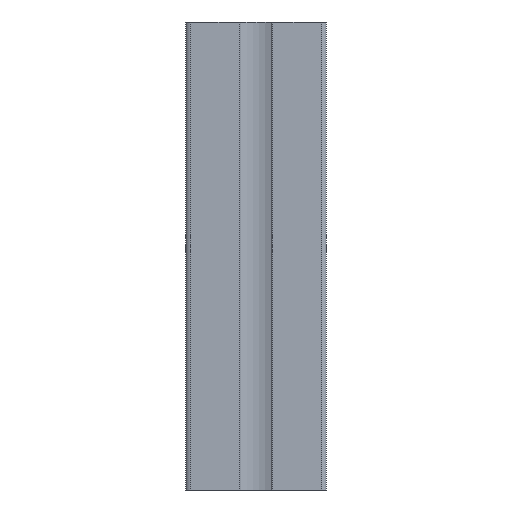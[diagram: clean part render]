
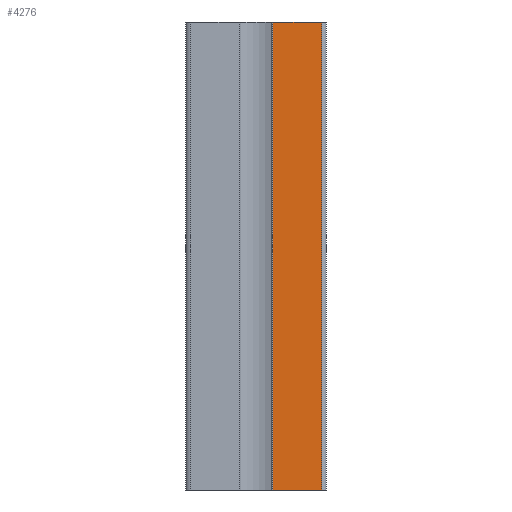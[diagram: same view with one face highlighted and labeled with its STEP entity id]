
A CAD part, front view. The second image highlights one B-rep face of the part: STEP entity #4276.
In plain terms, the highlighted planar face has unit normal (0, -1, 0).
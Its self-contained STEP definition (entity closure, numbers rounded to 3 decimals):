
#133 = EDGE_LOOP ( 'NONE', ( #2985, #7138, #1195, #2493 ) ) ;
#293 = VECTOR ( 'NONE', #3691, 1000. ) ;
#301 = VERTEX_POINT ( 'NONE', #3799 ) ;
#347 = CARTESIAN_POINT ( 'NONE',  ( 3.55, -15., 50. ) ) ;
#413 = VERTEX_POINT ( 'NONE', #4517 ) ;
#613 = CARTESIAN_POINT ( 'NONE',  ( 3.55, -15., 50. ) ) ;
#720 = VERTEX_POINT ( 'NONE', #1559 ) ;
#890 = FACE_OUTER_BOUND ( 'NONE', #133, .T. ) ;
#1094 = EDGE_CURVE ( 'NONE', #301, #720, #5416, .T. ) ;
#1195 = ORIENTED_EDGE ( 'NONE', *, *, #7139, .F. ) ;
#1475 = CARTESIAN_POINT ( 'NONE',  ( 3.55, -15., 50. ) ) ;
#1495 = EDGE_CURVE ( 'NONE', #413, #3148, #5988, .T. ) ;
#1559 = CARTESIAN_POINT ( 'NONE',  ( 14., -15., -50. ) ) ;
#2484 = VECTOR ( 'NONE', #3151, 1000. ) ;
#2493 = ORIENTED_EDGE ( 'NONE', *, *, #1495, .T. ) ;
#2556 = DIRECTION ( 'NONE',  ( 0., 0., 1. ) ) ;
#2985 = ORIENTED_EDGE ( 'NONE', *, *, #6840, .T. ) ;
#3148 = VERTEX_POINT ( 'NONE', #6407 ) ;
#3151 = DIRECTION ( 'NONE',  ( 0., 0., -1. ) ) ;
#3290 = VECTOR ( 'NONE', #6802, 1000. ) ;
#3598 = LINE ( 'NONE', #4027, #3290 ) ;
#3691 = DIRECTION ( 'NONE',  ( 0., 0., -1. ) ) ;
#3799 = CARTESIAN_POINT ( 'NONE',  ( 14., -15., 50. ) ) ;
#4027 = CARTESIAN_POINT ( 'NONE',  ( 3.55, -15., -50. ) ) ;
#4227 = DIRECTION ( 'NONE',  ( 0., 1., 0. ) ) ;
#4276 = ADVANCED_FACE ( 'NONE', ( #890 ), #5912, .F. ) ;
#4301 = AXIS2_PLACEMENT_3D ( 'NONE', #347, #4227, #2556 ) ;
#4517 = CARTESIAN_POINT ( 'NONE',  ( 3.55, -15., 50. ) ) ;
#4978 = LINE ( 'NONE', #613, #6414 ) ;
#5377 = CARTESIAN_POINT ( 'NONE',  ( 14., -15., 50. ) ) ;
#5416 = LINE ( 'NONE', #5377, #2484 ) ;
#5912 = PLANE ( 'NONE',  #4301 ) ;
#5988 = LINE ( 'NONE', #1475, #293 ) ;
#6407 = CARTESIAN_POINT ( 'NONE',  ( 3.55, -15., -50. ) ) ;
#6414 = VECTOR ( 'NONE', #7197, 1000. ) ;
#6802 = DIRECTION ( 'NONE',  ( 1., 0., 0. ) ) ;
#6840 = EDGE_CURVE ( 'NONE', #3148, #720, #3598, .T. ) ;
#7138 = ORIENTED_EDGE ( 'NONE', *, *, #1094, .F. ) ;
#7139 = EDGE_CURVE ( 'NONE', #413, #301, #4978, .T. ) ;
#7197 = DIRECTION ( 'NONE',  ( 1., 0., 0. ) ) ;
